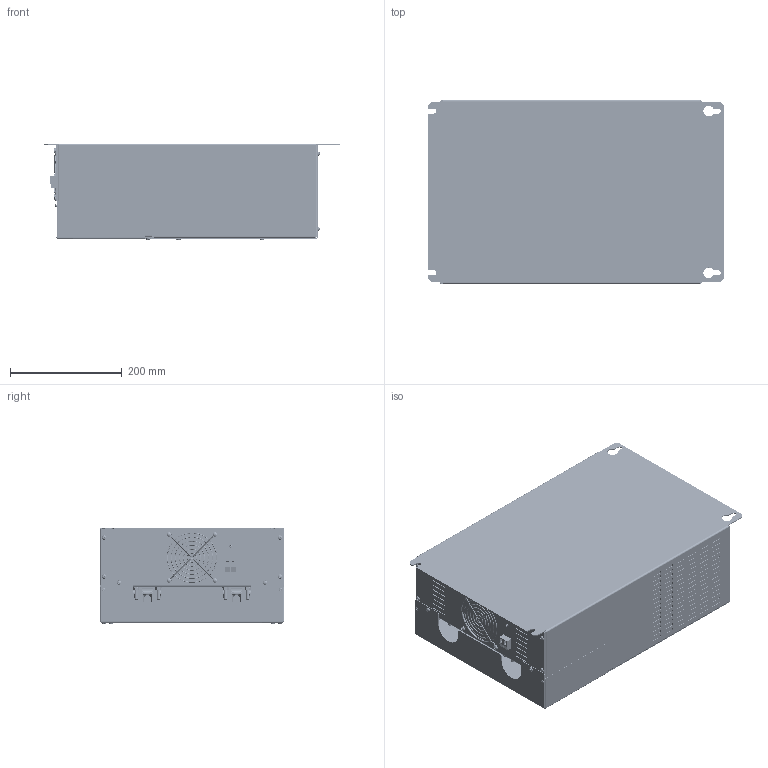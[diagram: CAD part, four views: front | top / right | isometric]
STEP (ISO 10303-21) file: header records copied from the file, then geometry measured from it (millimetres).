
FILE_DESCRIPTION(/* description */ (''),/* implementation_level */ '2;1');
FILE_NAME(/* name */ 'C:\Users\Erika.Jenzer\OneDrive - Schaffner EMV AG\CR_COs\FN5420 IP20 FRAME SIZE E.stp',/* time_stamp */ '2022-03-04T09:30:33+01:00',/* author */ ('erika.jenzer'),/* organization */ (''),/* preprocessor_version */ 'ST-DEVELOPER v18.1',/* originating_system */ 'Autodesk Inventor 2020',/* authorisation */ '');
FILE_SCHEMA (('AUTOMOTIVE_DESIGN { 1 0 10303 214 3 1 1 }'));
Products named in the file (1): FN5420 IP20 FRAME SIZE E
Bounding box: 530 x 330 x 173.05 mm (x, y, z)
Surface area: 963781.4 mm2
Topology: 34 solids, 59 shells, 6225 faces, 16729 edges, 11081 vertices
Faces by surface type: plane 3301, cylinder 2346, cone 255, torus 163, bspline 141, sphere 19
Full cylindrical faces by diameter (mm): 0.015 x2, 2 x2, 2.75 x1, 3 x1, 3.2 x16, 3.242 x4, 3.3 x2, 3.4 x5, 3.5 x2, 3.621 x16, 4 x8, 4.3 x4, 4.5 x4, 4.8 x18, 5 x2, 5.2 x2, 5.4 x8, 5.56 x2, 6 x4, 6.2 x2, 6.5 x2, 6.647 x2, 6.8 x6, 7 x7, 7.3 x4, 7.9 x4, 8 x9, 8.4 x2, 8.5 x2, 9 x4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
Entity records: 219924 total; most frequent: CARTESIAN_POINT 54947, ORIENTED_EDGE 33414, DIRECTION 33407, EDGE_CURVE 16707, AXIS2_PLACEMENT_3D 11644, VERTEX_POINT 11081, LINE 10119, VECTOR 10119
